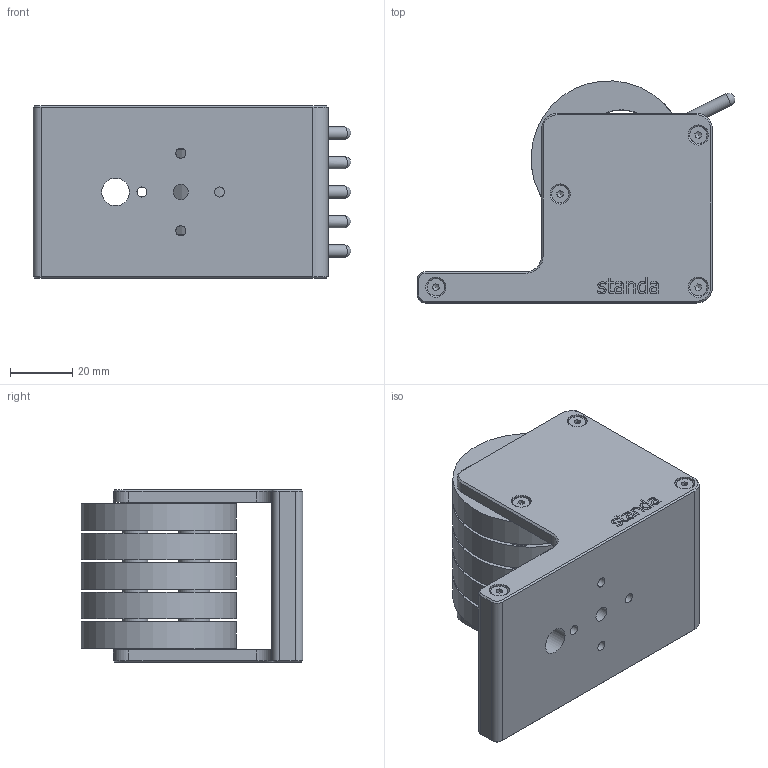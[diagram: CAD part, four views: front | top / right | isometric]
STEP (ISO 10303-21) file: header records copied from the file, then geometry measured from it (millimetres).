
FILE_DESCRIPTION(/* description */ (''),/* implementation_level */ '2;1');
FILE_NAME(/* name */ 'U:\KONSTRUKTORIAI\! ! ! BENDRAS ! ! !\Ramunas\schemos\04\4VFH-5-25.4\step\4VFH-5-1.stp',/* time_stamp */ '2015-03-27T14:10:13+02:00',/* author */ ('dsgn31'),/* organization */ (''),/* preprocessor_version */ 'ST-DEVELOPER v15.2',/* originating_system */ 'Autodesk Inventor 2014',/* authorisation */ '');
FILE_SCHEMA (('AUTOMOTIVE_DESIGN { 1 0 10303 214 3 1 1 }'));
Length unit declared in the file: inch
Products named in the file (1): 4VFH-5-25.4_Shrinkwrap_1
Bounding box: 102.22 x 71.41 x 55.5 mm (x, y, z)
Volume: 130875.8 mm3; surface area: 56622.5 mm2
Topology: 6 solids, 21 shells, 578 faces, 1482 edges, 987 vertices
Faces by surface type: plane 244, bspline 134, cylinder 125, cone 70, sphere 5
Full cylindrical faces by diameter (mm): 1.567 x5, 2.013 x5, 2.459 x6, 3 x8, 3.242 x4, 3.4 x8, 4 x5, 4.917 x1, 5 x6, 5.54 x8, 6.5 x8, 7 x7, 8 x1, 8.917 x1, 10 x6, 25.4 x8, 30 x5, 32 x5, 50 x5
Entity records: 24173 total; most frequent: CARTESIAN_POINT 12033, ORIENTED_EDGE 2464, DIRECTION 2036, EDGE_CURVE 1222, VERTEX_POINT 876, EDGE_LOOP 830, AXIS2_PLACEMENT_3D 736, ADVANCED_FACE 578
